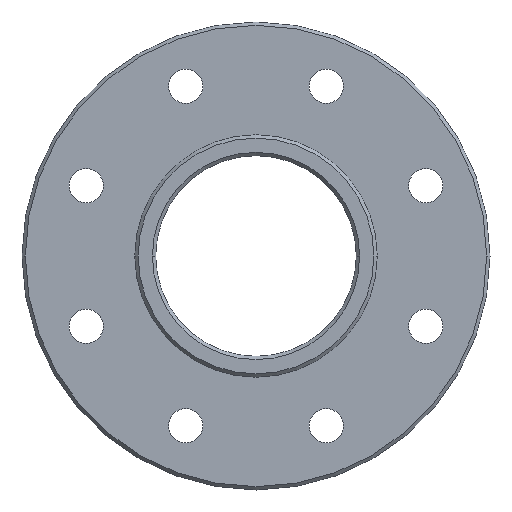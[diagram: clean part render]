
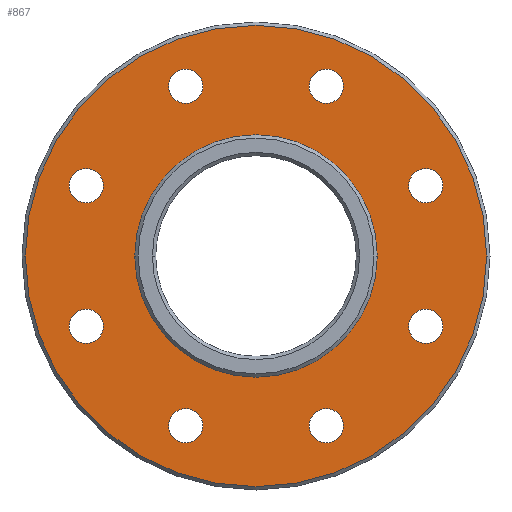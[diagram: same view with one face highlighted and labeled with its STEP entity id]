
A CAD part, front view. The second image highlights one B-rep face of the part: STEP entity #867.
In plain terms, the highlighted planar face has unit normal (0, -1, 0).
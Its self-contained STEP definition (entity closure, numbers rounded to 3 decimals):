
#28=CARTESIAN_POINT('',(0.,-2.5,0.));
#29=DIRECTION('',(0.,1.,0.));
#30=DIRECTION('',(1.,0.,0.));
#31=AXIS2_PLACEMENT_3D('',#28,#29,#30);
#33=CARTESIAN_POINT('',(0.,-2.5,0.));
#34=DIRECTION('',(0.,-1.,0.));
#35=DIRECTION('',(1.,0.,0.));
#36=AXIS2_PLACEMENT_3D('',#33,#34,#35);
#38=CARTESIAN_POINT('',(4.21,-2.5,-10.163));
#39=DIRECTION('',(0.,1.,0.));
#40=DIRECTION('',(1.,0.,0.));
#41=AXIS2_PLACEMENT_3D('',#38,#39,#40);
#43=CARTESIAN_POINT('',(4.21,-2.5,-10.163));
#44=DIRECTION('',(0.,1.,0.));
#45=DIRECTION('',(-1.,0.,0.));
#46=AXIS2_PLACEMENT_3D('',#43,#44,#45);
#48=CARTESIAN_POINT('',(10.163,-2.5,-4.21));
#49=DIRECTION('',(0.,1.,0.));
#50=DIRECTION('',(1.,0.,0.));
#51=AXIS2_PLACEMENT_3D('',#48,#49,#50);
#53=CARTESIAN_POINT('',(10.163,-2.5,-4.21));
#54=DIRECTION('',(0.,1.,0.));
#55=DIRECTION('',(-1.,0.,0.));
#56=AXIS2_PLACEMENT_3D('',#53,#54,#55);
#58=CARTESIAN_POINT('',(10.163,-2.5,4.21));
#59=DIRECTION('',(0.,1.,0.));
#60=DIRECTION('',(1.,0.,0.));
#61=AXIS2_PLACEMENT_3D('',#58,#59,#60);
#63=CARTESIAN_POINT('',(10.163,-2.5,4.21));
#64=DIRECTION('',(0.,1.,0.));
#65=DIRECTION('',(-1.,0.,0.));
#66=AXIS2_PLACEMENT_3D('',#63,#64,#65);
#68=CARTESIAN_POINT('',(4.21,-2.5,10.163));
#69=DIRECTION('',(0.,1.,0.));
#70=DIRECTION('',(1.,0.,0.));
#71=AXIS2_PLACEMENT_3D('',#68,#69,#70);
#73=CARTESIAN_POINT('',(4.21,-2.5,10.163));
#74=DIRECTION('',(0.,1.,0.));
#75=DIRECTION('',(-1.,0.,0.));
#76=AXIS2_PLACEMENT_3D('',#73,#74,#75);
#78=CARTESIAN_POINT('',(-4.21,-2.5,10.163));
#79=DIRECTION('',(0.,1.,0.));
#80=DIRECTION('',(1.,0.,0.));
#81=AXIS2_PLACEMENT_3D('',#78,#79,#80);
#83=CARTESIAN_POINT('',(-4.21,-2.5,10.163));
#84=DIRECTION('',(0.,1.,0.));
#85=DIRECTION('',(-1.,0.,0.));
#86=AXIS2_PLACEMENT_3D('',#83,#84,#85);
#88=CARTESIAN_POINT('',(-10.163,-2.5,4.21));
#89=DIRECTION('',(0.,1.,0.));
#90=DIRECTION('',(1.,0.,0.));
#91=AXIS2_PLACEMENT_3D('',#88,#89,#90);
#93=CARTESIAN_POINT('',(-10.163,-2.5,4.21));
#94=DIRECTION('',(0.,1.,0.));
#95=DIRECTION('',(-1.,0.,0.));
#96=AXIS2_PLACEMENT_3D('',#93,#94,#95);
#98=CARTESIAN_POINT('',(-10.163,-2.5,-4.21));
#99=DIRECTION('',(0.,1.,0.));
#100=DIRECTION('',(1.,0.,0.));
#101=AXIS2_PLACEMENT_3D('',#98,#99,#100);
#103=CARTESIAN_POINT('',(-10.163,-2.5,-4.21));
#104=DIRECTION('',(0.,1.,0.));
#105=DIRECTION('',(-1.,0.,0.));
#106=AXIS2_PLACEMENT_3D('',#103,#104,#105);
#108=CARTESIAN_POINT('',(-4.21,-2.5,-10.163));
#109=DIRECTION('',(0.,1.,0.));
#110=DIRECTION('',(1.,0.,0.));
#111=AXIS2_PLACEMENT_3D('',#108,#109,#110);
#113=CARTESIAN_POINT('',(-4.21,-2.5,-10.163));
#114=DIRECTION('',(0.,1.,0.));
#115=DIRECTION('',(-1.,0.,0.));
#116=AXIS2_PLACEMENT_3D('',#113,#114,#115);
#127=CARTESIAN_POINT('',(0.,-2.5,0.));
#128=DIRECTION('',(0.,-1.,0.));
#129=DIRECTION('',(1.,0.,0.));
#130=AXIS2_PLACEMENT_3D('',#127,#128,#129);
#575=CARTESIAN_POINT('',(0.,-2.5,0.));
#576=DIRECTION('',(0.,1.,0.));
#577=DIRECTION('',(1.,0.,0.));
#578=AXIS2_PLACEMENT_3D('',#575,#576,#577);
#590=CARTESIAN_POINT('',(7.25,-2.5,0.));
#591=CARTESIAN_POINT('',(-7.25,-2.5,0.));
#592=VERTEX_POINT('',#590);
#593=VERTEX_POINT('',#591);
#602=CARTESIAN_POINT('',(5.235,-2.5,-10.163));
#603=CARTESIAN_POINT('',(3.185,-2.5,-10.163));
#604=VERTEX_POINT('',#602);
#605=VERTEX_POINT('',#603);
#614=CARTESIAN_POINT('',(11.188,-2.5,-4.21));
#615=CARTESIAN_POINT('',(9.138,-2.5,-4.21));
#616=VERTEX_POINT('',#614);
#617=VERTEX_POINT('',#615);
#626=CARTESIAN_POINT('',(11.188,-2.5,4.21));
#627=CARTESIAN_POINT('',(9.138,-2.5,4.21));
#628=VERTEX_POINT('',#626);
#629=VERTEX_POINT('',#627);
#638=CARTESIAN_POINT('',(5.235,-2.5,10.163));
#639=CARTESIAN_POINT('',(3.185,-2.5,10.163));
#640=VERTEX_POINT('',#638);
#641=VERTEX_POINT('',#639);
#650=CARTESIAN_POINT('',(-3.185,-2.5,10.163));
#651=CARTESIAN_POINT('',(-5.235,-2.5,10.163));
#652=VERTEX_POINT('',#650);
#653=VERTEX_POINT('',#651);
#662=CARTESIAN_POINT('',(-9.138,-2.5,4.21));
#663=CARTESIAN_POINT('',(-11.188,-2.5,4.21));
#664=VERTEX_POINT('',#662);
#665=VERTEX_POINT('',#663);
#674=CARTESIAN_POINT('',(-9.138,-2.5,-4.21));
#675=CARTESIAN_POINT('',(-11.188,-2.5,-4.21));
#676=VERTEX_POINT('',#674);
#677=VERTEX_POINT('',#675);
#686=CARTESIAN_POINT('',(-3.185,-2.5,-10.163));
#687=CARTESIAN_POINT('',(-5.235,-2.5,-10.163));
#688=VERTEX_POINT('',#686);
#689=VERTEX_POINT('',#687);
#706=CARTESIAN_POINT('',(13.8,-2.5,0.));
#707=CARTESIAN_POINT('',(-13.8,-2.5,0.));
#708=VERTEX_POINT('',#706);
#709=VERTEX_POINT('',#707);
#804=CARTESIAN_POINT('',(0.,-2.5,0.));
#805=DIRECTION('',(0.,-1.,0.));
#806=DIRECTION('',(-1.,0.,0.));
#807=AXIS2_PLACEMENT_3D('',#804,#805,#806);
#808=PLANE('',#807);
#810=ORIENTED_EDGE('',*,*,#809,.F.);
#812=ORIENTED_EDGE('',*,*,#811,.T.);
#813=EDGE_LOOP('',(#810,#812));
#814=FACE_OUTER_BOUND('',#813,.F.);
#815=ORIENTED_EDGE('',*,*,#796,.F.);
#816=ORIENTED_EDGE('',*,*,#785,.T.);
#817=EDGE_LOOP('',(#815,#816));
#818=FACE_BOUND('',#817,.F.);
#820=ORIENTED_EDGE('',*,*,#819,.F.);
#822=ORIENTED_EDGE('',*,*,#821,.F.);
#823=EDGE_LOOP('',(#820,#822));
#824=FACE_BOUND('',#823,.F.);
#826=ORIENTED_EDGE('',*,*,#825,.F.);
#828=ORIENTED_EDGE('',*,*,#827,.F.);
#829=EDGE_LOOP('',(#826,#828));
#830=FACE_BOUND('',#829,.F.);
#832=ORIENTED_EDGE('',*,*,#831,.F.);
#834=ORIENTED_EDGE('',*,*,#833,.F.);
#835=EDGE_LOOP('',(#832,#834));
#836=FACE_BOUND('',#835,.F.);
#838=ORIENTED_EDGE('',*,*,#837,.F.);
#840=ORIENTED_EDGE('',*,*,#839,.F.);
#841=EDGE_LOOP('',(#838,#840));
#842=FACE_BOUND('',#841,.F.);
#844=ORIENTED_EDGE('',*,*,#843,.F.);
#846=ORIENTED_EDGE('',*,*,#845,.F.);
#847=EDGE_LOOP('',(#844,#846));
#848=FACE_BOUND('',#847,.F.);
#850=ORIENTED_EDGE('',*,*,#849,.F.);
#852=ORIENTED_EDGE('',*,*,#851,.F.);
#853=EDGE_LOOP('',(#850,#852));
#854=FACE_BOUND('',#853,.F.);
#856=ORIENTED_EDGE('',*,*,#855,.F.);
#858=ORIENTED_EDGE('',*,*,#857,.F.);
#859=EDGE_LOOP('',(#856,#858));
#860=FACE_BOUND('',#859,.F.);
#862=ORIENTED_EDGE('',*,*,#861,.F.);
#864=ORIENTED_EDGE('',*,*,#863,.F.);
#865=EDGE_LOOP('',(#862,#864));
#866=FACE_BOUND('',#865,.F.);
#867=ADVANCED_FACE('',(#814,#818,#824,#830,#836,#842,#848,#854,#860,#866),#808,
.T.);
#32=CIRCLE('',#31,7.25);
#37=CIRCLE('',#36,7.25);
#42=CIRCLE('',#41,1.025);
#47=CIRCLE('',#46,1.025);
#52=CIRCLE('',#51,1.025);
#57=CIRCLE('',#56,1.025);
#62=CIRCLE('',#61,1.025);
#67=CIRCLE('',#66,1.025);
#72=CIRCLE('',#71,1.025);
#77=CIRCLE('',#76,1.025);
#82=CIRCLE('',#81,1.025);
#87=CIRCLE('',#86,1.025);
#92=CIRCLE('',#91,1.025);
#97=CIRCLE('',#96,1.025);
#102=CIRCLE('',#101,1.025);
#107=CIRCLE('',#106,1.025);
#112=CIRCLE('',#111,1.025);
#117=CIRCLE('',#116,1.025);
#131=CIRCLE('',#130,13.8);
#579=CIRCLE('',#578,13.8);
#785=EDGE_CURVE('',#592,#593,#37,.T.);
#796=EDGE_CURVE('',#592,#593,#32,.T.);
#809=EDGE_CURVE('',#708,#709,#131,.T.);
#811=EDGE_CURVE('',#708,#709,#579,.T.);
#819=EDGE_CURVE('',#604,#605,#42,.T.);
#821=EDGE_CURVE('',#605,#604,#47,.T.);
#825=EDGE_CURVE('',#616,#617,#52,.T.);
#827=EDGE_CURVE('',#617,#616,#57,.T.);
#831=EDGE_CURVE('',#628,#629,#62,.T.);
#833=EDGE_CURVE('',#629,#628,#67,.T.);
#837=EDGE_CURVE('',#640,#641,#72,.T.);
#839=EDGE_CURVE('',#641,#640,#77,.T.);
#843=EDGE_CURVE('',#652,#653,#82,.T.);
#845=EDGE_CURVE('',#653,#652,#87,.T.);
#849=EDGE_CURVE('',#664,#665,#92,.T.);
#851=EDGE_CURVE('',#665,#664,#97,.T.);
#855=EDGE_CURVE('',#676,#677,#102,.T.);
#857=EDGE_CURVE('',#677,#676,#107,.T.);
#861=EDGE_CURVE('',#688,#689,#112,.T.);
#863=EDGE_CURVE('',#689,#688,#117,.T.);
